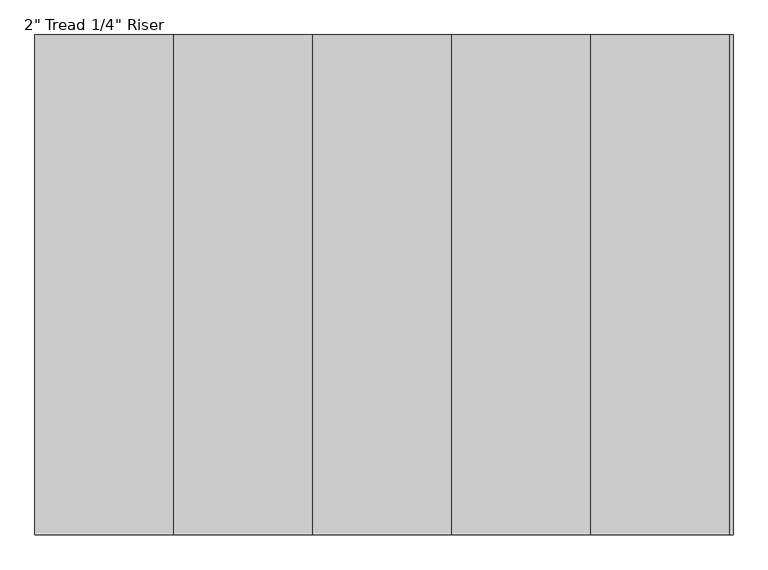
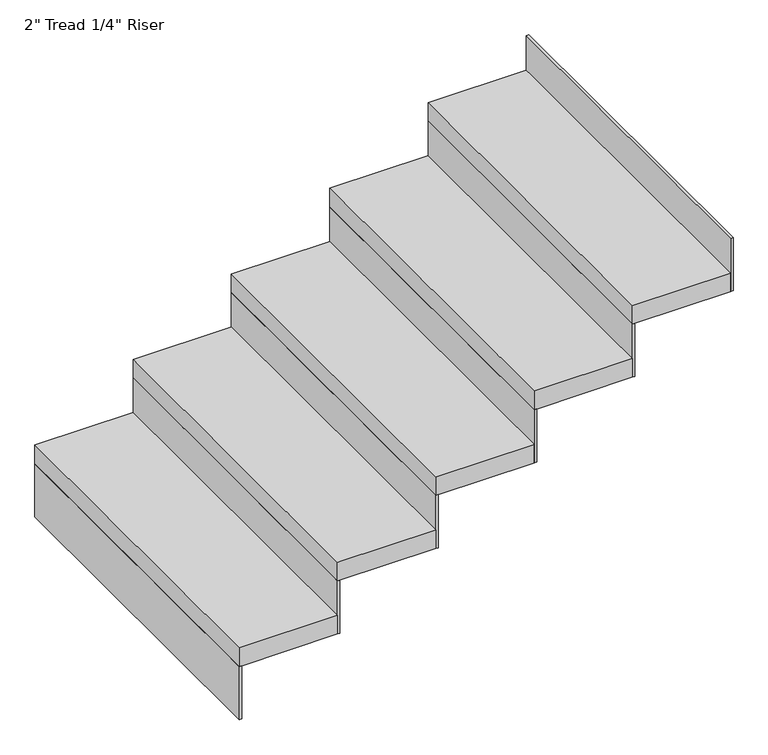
"""IFC4 building model written with IfcOpenShell, lengths in millimetres: stair flight geometry."""

from ifc_helpers import new_model, si_unit, frame, origin, place, context, project, spatial, polyline, outline, extrude, source, transform, mapped, element, save


def stair_flight_2bd32467(model_context):
    return source(origin(), model_context, "Body", "SweptSolid", [
        extrude(outline(polyline([(164309.4120703, -2429.8986114), (164303.0620703, -2429.8986114), (164303.0620703, -1515.4986114), (164309.4120703, -1515.4986114), (164309.4120703, -2429.8986114)])), frame((0.0, 0.0, 2126.3428571), z_axis=(0.0, 0.0, 1.0), x_axis=(1.0, 0.0, 0.0)), (0.0, 0.0, 1.0), 145.1428571),
        extrude(outline(polyline([(164557.0620703, -1515.4986114), (164557.0620703, -2429.8986114), (164303.0620703, -2429.8986114), (164303.0620703, -1515.4986114), (164557.0620703, -1515.4986114)])), frame((0.0, 0.0, 2271.4857143), z_axis=(0.0, 0.0, 1.0), x_axis=(1.0, 0.0, 0.0)), (0.0, 0.0, 1.0), 50.8),
        extrude(outline(polyline([(164563.4120703, -2429.8986114), (164557.0620703, -2429.8986114), (164557.0620703, -1515.4986114), (164563.4120703, -1515.4986114), (164563.4120703, -2429.8986114)])), frame((0.0, 0.0, 2271.4857143), z_axis=(0.0, 0.0, 1.0), x_axis=(1.0, 0.0, 0.0)), (0.0, 0.0, 1.0), 145.1428571),
        extrude(outline(polyline([(164811.0620703, -1515.4986114), (164811.0620703, -2429.8986114), (164557.0620703, -2429.8986114), (164557.0620703, -1515.4986114), (164811.0620703, -1515.4986114)])), frame((0.0, 0.0, 2416.6285714), z_axis=(0.0, 0.0, 1.0), x_axis=(1.0, 0.0, 0.0)), (0.0, 0.0, 1.0), 50.8),
        extrude(outline(polyline([(164817.4120703, -2429.8986114), (164811.0620703, -2429.8986114), (164811.0620703, -1515.4986114), (164817.4120703, -1515.4986114), (164817.4120703, -2429.8986114)])), frame((0.0, 0.0, 2416.6285714), z_axis=(0.0, 0.0, 1.0), x_axis=(1.0, 0.0, 0.0)), (0.0, 0.0, 1.0), 145.1428571),
        extrude(outline(polyline([(165065.0620703, -1515.4986114), (165065.0620703, -2429.8986114), (164811.0620703, -2429.8986114), (164811.0620703, -1515.4986114), (165065.0620703, -1515.4986114)])), frame((0.0, 0.0, 2561.7714286), z_axis=(0.0, 0.0, 1.0), x_axis=(1.0, 0.0, 0.0)), (0.0, 0.0, 1.0), 50.8),
        extrude(outline(polyline([(165071.4120703, -2429.8986114), (165065.0620703, -2429.8986114), (165065.0620703, -1515.4986114), (165071.4120703, -1515.4986114), (165071.4120703, -2429.8986114)])), frame((0.0, 0.0, 2561.7714286), z_axis=(0.0, 0.0, 1.0), x_axis=(1.0, 0.0, 0.0)), (0.0, 0.0, 1.0), 145.1428571),
        extrude(outline(polyline([(165319.0620703, -1515.4986114), (165319.0620703, -2429.8986114), (165065.0620703, -2429.8986114), (165065.0620703, -1515.4986114), (165319.0620703, -1515.4986114)])), frame((0.0, 0.0, 2706.9142857), z_axis=(0.0, 0.0, 1.0), x_axis=(1.0, 0.0, 0.0)), (0.0, 0.0, 1.0), 50.8),
        extrude(outline(polyline([(165325.4120703, -2429.8986114), (165319.0620703, -2429.8986114), (165319.0620703, -1515.4986114), (165325.4120703, -1515.4986114), (165325.4120703, -2429.8986114)])), frame((0.0, 0.0, 2706.9142857), z_axis=(0.0, 0.0, 1.0), x_axis=(1.0, 0.0, 0.0)), (0.0, 0.0, 1.0), 145.1428571),
        extrude(outline(polyline([(165579.4120703, -2429.8986114), (165573.0620703, -2429.8986114), (165573.0620703, -1515.4986114), (165579.4120703, -1515.4986114), (165579.4120703, -2429.8986114)])), frame((0.0, 0.0, 2852.0571429), z_axis=(0.0, 0.0, 1.0), x_axis=(1.0, 0.0, 0.0)), (0.0, 0.0, 1.0), 145.1428571),
        extrude(outline(polyline([(165573.0620703, -1515.4986114), (165573.0620703, -2429.8986114), (165319.0620703, -2429.8986114), (165319.0620703, -1515.4986114), (165573.0620703, -1515.4986114)])), frame((0.0, 0.0, 2852.0571429), z_axis=(0.0, 0.0, 1.0), x_axis=(1.0, 0.0, 0.0)), (0.0, 0.0, 1.0), 50.8),
    ])


if __name__ == "__main__":
    model = new_model("IFC4")
    model_context = context("Model", 3, world=origin())
    ifc_project = project(units=[si_unit("LENGTHUNIT", "METRE", prefix="MILLI")], contexts=[model_context])
    site = spatial("IfcSite", under=ifc_project)
    building = spatial("IfcBuilding", under=site)
    placement = place(None, origin())
    stair_flight_shape = stair_flight_2bd32467(model_context)
    element("IfcStairFlight", 1, ObjectType="2\" Tread 1/4\" Riser", at=placement, inside=building, context=model_context, shape_type="MappedRepresentation", body=[
        mapped(stair_flight_shape, transform((0.0, 0.0, 0.0), x_axis=(1.0, 0.0, 0.0), y_axis=(0.0, 1.0, 0.0), z_axis=(0.0, 0.0, 1.0))),
    ])
    save(model, "model.ifc")
